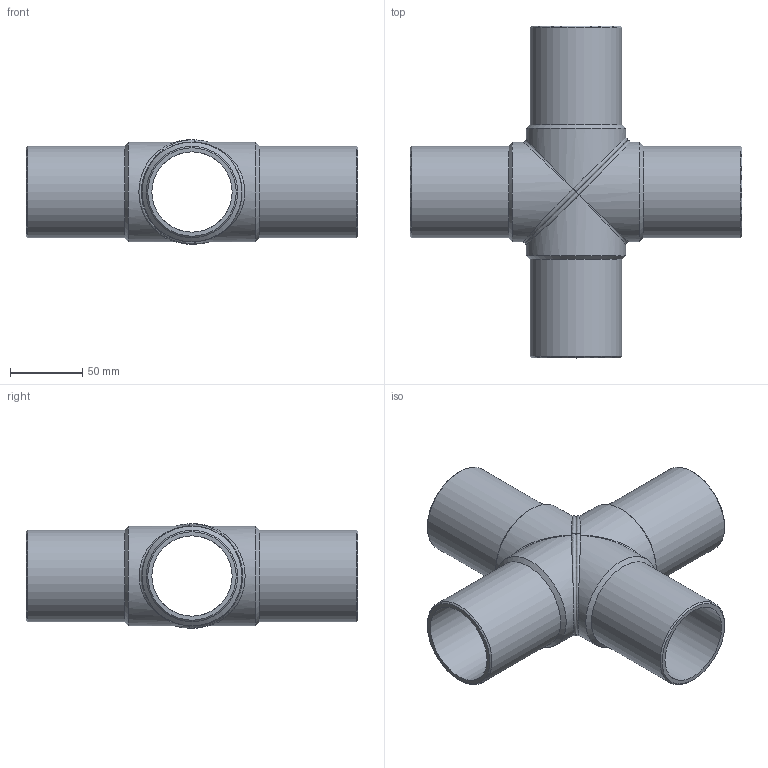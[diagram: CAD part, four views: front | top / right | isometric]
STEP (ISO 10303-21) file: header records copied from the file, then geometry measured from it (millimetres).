
FILE_DESCRIPTION(/* description */ ('Unknown'),/* implementation_level */ '2;1');
FILE_NAME(/* name */ 'CRP063B',/* time_stamp */ '2022-07-08T10:23:03+02:00',/* author */ ('Unknown'),/* organization */ ('Unknown'),/* preprocessor_version */ 'ST-DEVELOPER v18.102',/* originating_system */ 'Solid Edge',/* authorisation */ 'Unknown');
FILE_SCHEMA (('AUTOMOTIVE_DESIGN {1 0 10303 214 3 1 1}'));
Length unit declared in the file: millimetre
Products named in the file (3): CRP063B; CRP063B_mir
Assembly tree (2 placements, depth 2):
  CRP063B
    CRP063B_mir
    CRP063B
Bounding box: 229 x 229 x 71.99 mm (x, y, z)
Volume: 331373.2 mm3; surface area: 150166.7 mm2
Topology: 2 solids, 2 shells, 32 faces, 90 edges, 60 vertices
Faces by surface type: cylinder 12, cone 8, bspline 6, plane 6
Full cylindrical faces by diameter (mm): 55.4 x4, 63 x4, 69 x4
Entity records: 2699 total; most frequent: CARTESIAN_POINT 1971, DIRECTION 126, ORIENTED_EDGE 120, AXIS2_PLACEMENT_3D 63, EDGE_CURVE 60, EDGE_LOOP 58, FACE_BOUND 58, VERTEX_POINT 50
